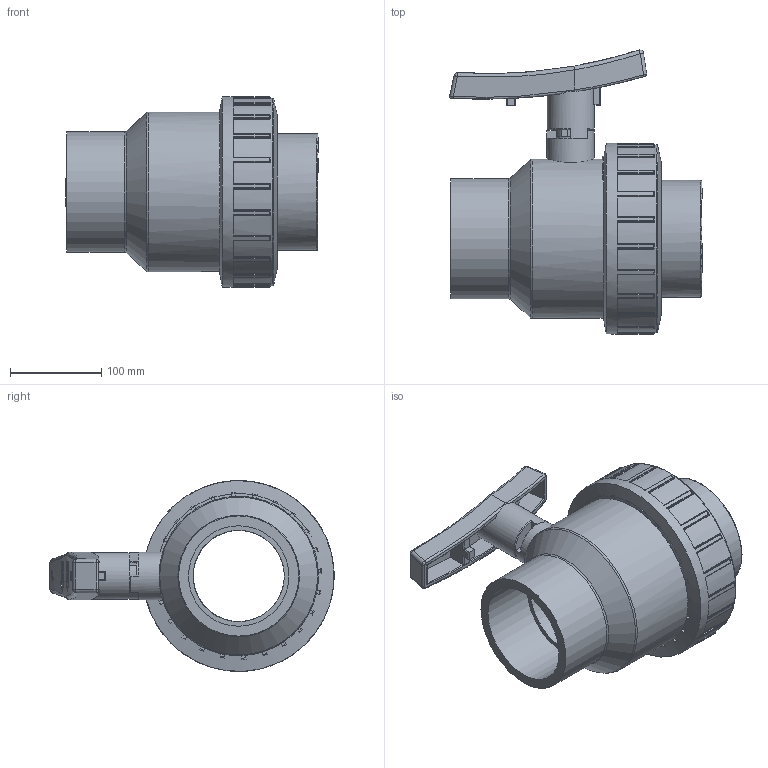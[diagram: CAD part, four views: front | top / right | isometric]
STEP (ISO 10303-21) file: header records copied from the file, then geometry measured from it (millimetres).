
FILE_DESCRIPTION(/* description */ (''),/* implementation_level */ '2;1');
FILE_NAME(/* name */ 'C:\ex desktop\VALVOLE SFERA\BV ACQUA\VALVOLE BVS MM\BVS40\BVS40110\BVS40110_new_handle.stp',/* time_stamp */ '2019-04-17T10:25:44+02:00',/* author */ ('e.sacchi'),/* organization */ (''),/* preprocessor_version */ 'ST-DEVELOPER v16.13',/* originating_system */ 'Autodesk Inventor 2018',/* authorisation */ '');
FILE_SCHEMA (('AUTOMOTIVE_DESIGN { 1 0 10303 214 3 1 1 }'));
Length unit declared in the file: millimetre
Products named in the file (11): BVS111000; CORPO_BVS_10_d_110; asta_BVI_10_d_110; sfera_BVI_10_d_110; supporto_BVD_40_d_110; LAV4550E; LAV4437E; PTFE_BVI_10_d_110; collare_BVI_10_d_110; ghiera_BVI_10_d_110; maniglia_BVI_d_110
Assembly tree (13 placements, depth 2):
  BVS111000
    CORPO_BVS_10_d_110
    LAV4437E  x3
    PTFE_BVI_10_d_110  x2
    asta_BVI_10_d_110
    sfera_BVI_10_d_110
    supporto_BVD_40_d_110
    LAV4550E
    collare_BVI_10_d_110
    ghiera_BVI_10_d_110
    maniglia_BVI_d_110
Bounding box: 276.52 x 311.1 x 208.94 mm (x, y, z)
Volume: 3435721.1 mm3; surface area: 801748.9 mm2
Topology: 16 solids, 16 shells, 1468 faces, 3710 edges, 2345 vertices
Faces by surface type: plane 618, bspline 328, cylinder 318, torus 124, sphere 50, cone 30
Full cylindrical faces by diameter (mm): 12 x1, 15.28 x1, 28 x2, 31.4 x3, 31.7 x1, 38.4 x1, 51.4 x1, 52 x1, 100 x4, 106.943 x1, 110 x4, 116 x4, 126 x1, 128 x1, 131 x1, 131.6 x1, 145 x1, 147.959 x2, 149.5 x1, 154 x2, 154.5 x1, 158.5 x2, 174.5 x15, 206 x1, 209 x1
Entity records: 60314 total; most frequent: CARTESIAN_POINT 26554, ORIENTED_EDGE 7188, DIRECTION 6546, EDGE_CURVE 3593, AXIS2_PLACEMENT_3D 2426, VERTEX_POINT 2305, LINE 1694, VECTOR 1694
